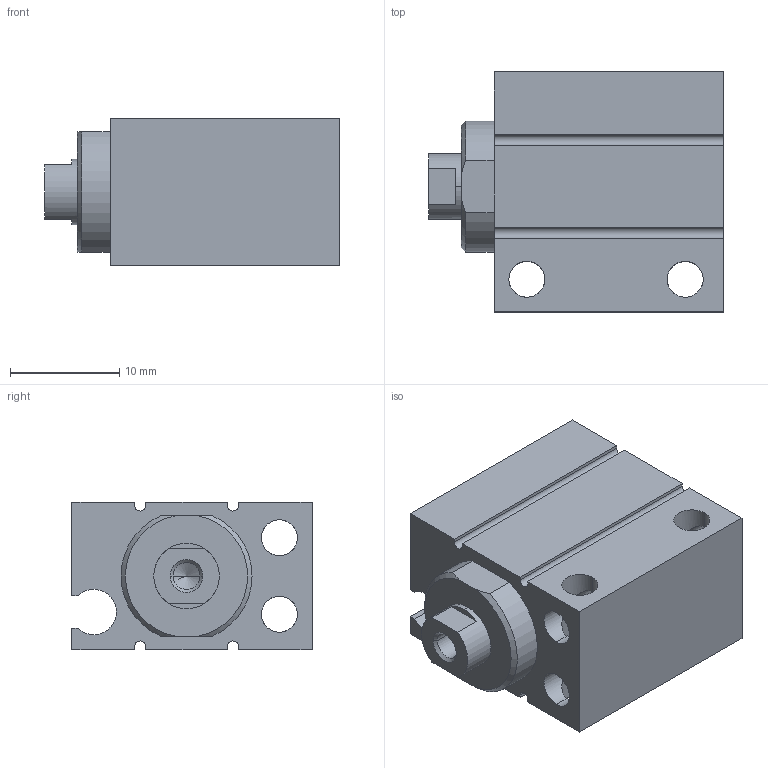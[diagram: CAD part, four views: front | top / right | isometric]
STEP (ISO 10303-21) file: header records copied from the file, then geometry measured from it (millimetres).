
FILE_DESCRIPTION (( 'STEP AP203' ), '1' );
FILE_NAME ('CLJB10-8.STEP', '2020-07-30T18:46:52', ( '' ), ( '' ), 'SwSTEP 2.0', 'SolidWorks 2019', '' );
FILE_SCHEMA (( 'CONFIG_CONTROL_DESIGN' ));
Length unit declared in the file: millimetre
Products named in the file (1): CLJB10-8
Bounding box: 27 x 22 x 13.5 mm (x, y, z)
Volume: 5331 mm3; surface area: 4058.3 mm2
Topology: 2 solids, 2 shells, 96 faces, 252 edges, 153 vertices
Faces by surface type: cylinder 49, plane 33, cone 14
Entity records: 2995 total; most frequent: CARTESIAN_POINT 604, ORIENTED_EDGE 492, DIRECTION 482, EDGE_CURVE 246, AXIS2_PLACEMENT_3D 175, VERTEX_POINT 153, LINE 132, VECTOR 132
